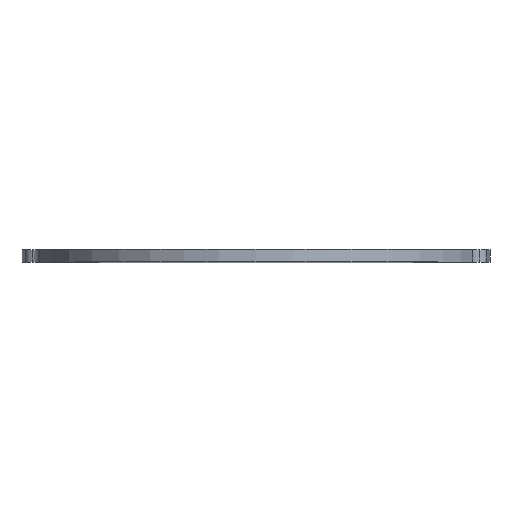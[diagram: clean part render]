
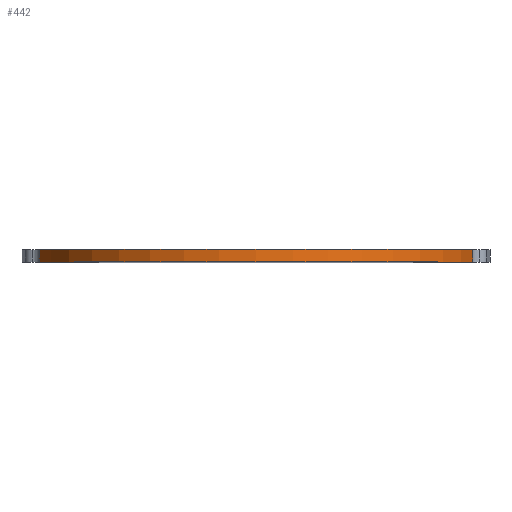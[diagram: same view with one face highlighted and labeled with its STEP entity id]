
A CAD part, top view. The second image highlights one B-rep face of the part: STEP entity #442.
In plain terms, the highlighted cylindrical face has radius 107.95 mm (diameter 215.9 mm), a partial arc.
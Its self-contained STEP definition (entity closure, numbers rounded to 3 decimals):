
#5 = VECTOR ( 'NONE', #503, 1000. ) ;
#19 = CYLINDRICAL_SURFACE ( 'NONE', #335, 107.95 ) ;
#23 = CIRCLE ( 'NONE', #1167, 107.95 ) ;
#35 = ORIENTED_EDGE ( 'NONE', *, *, #344, .F. ) ;
#122 = CARTESIAN_POINT ( 'NONE',  ( 104.514, 0., 27.019 ) ) ;
#137 = CARTESIAN_POINT ( 'NONE',  ( 0., 6., 0. ) ) ;
#144 = DIRECTION ( 'NONE',  ( 0., -1., 0. ) ) ;
#178 = EDGE_CURVE ( 'NONE', #448, #940, #23, .T. ) ;
#193 = DIRECTION ( 'NONE',  ( 0., 1., 0. ) ) ;
#224 = DIRECTION ( 'NONE',  ( 0., 1., 0. ) ) ;
#257 = DIRECTION ( 'NONE',  ( 0., 1., 0. ) ) ;
#298 = CARTESIAN_POINT ( 'NONE',  ( 104.514, 6., 27.019 ) ) ;
#335 = AXIS2_PLACEMENT_3D ( 'NONE', #137, #144, #1136 ) ;
#344 = EDGE_CURVE ( 'NONE', #510, #368, #1124, .T. ) ;
#368 = VERTEX_POINT ( 'NONE', #376 ) ;
#376 = CARTESIAN_POINT ( 'NONE',  ( 104.514, 6., 27.019 ) ) ;
#378 = CARTESIAN_POINT ( 'NONE',  ( -104.514, 0., 27.019 ) ) ;
#442 = ADVANCED_FACE ( 'NONE', ( #946 ), #19, .T. ) ;
#448 = VERTEX_POINT ( 'NONE', #378 ) ;
#503 = DIRECTION ( 'NONE',  ( 0., -1., 0. ) ) ;
#507 = LINE ( 'NONE', #298, #722 ) ;
#510 = VERTEX_POINT ( 'NONE', #1245 ) ;
#601 = EDGE_CURVE ( 'NONE', #510, #448, #1130, .T. ) ;
#621 = EDGE_LOOP ( 'NONE', ( #1390, #1442, #35, #1120 ) ) ;
#667 = CARTESIAN_POINT ( 'NONE',  ( 0., 0., 0. ) ) ;
#722 = VECTOR ( 'NONE', #193, 1000. ) ;
#766 = AXIS2_PLACEMENT_3D ( 'NONE', #1256, #257, #1133 ) ;
#939 = CARTESIAN_POINT ( 'NONE',  ( -104.514, 6., 27.019 ) ) ;
#940 = VERTEX_POINT ( 'NONE', #122 ) ;
#946 = FACE_OUTER_BOUND ( 'NONE', #621, .T. ) ;
#994 = EDGE_CURVE ( 'NONE', #940, #368, #507, .T. ) ;
#1120 = ORIENTED_EDGE ( 'NONE', *, *, #601, .T. ) ;
#1124 = CIRCLE ( 'NONE', #766, 107.95 ) ;
#1130 = LINE ( 'NONE', #939, #5 ) ;
#1133 = DIRECTION ( 'NONE',  ( 0., 0., -1. ) ) ;
#1136 = DIRECTION ( 'NONE',  ( 0., 0., -1. ) ) ;
#1167 = AXIS2_PLACEMENT_3D ( 'NONE', #667, #224, #1199 ) ;
#1199 = DIRECTION ( 'NONE',  ( 0., 0., -1. ) ) ;
#1245 = CARTESIAN_POINT ( 'NONE',  ( -104.514, 6., 27.019 ) ) ;
#1256 = CARTESIAN_POINT ( 'NONE',  ( 0., 6., 0. ) ) ;
#1390 = ORIENTED_EDGE ( 'NONE', *, *, #178, .T. ) ;
#1442 = ORIENTED_EDGE ( 'NONE', *, *, #994, .T. ) ;
